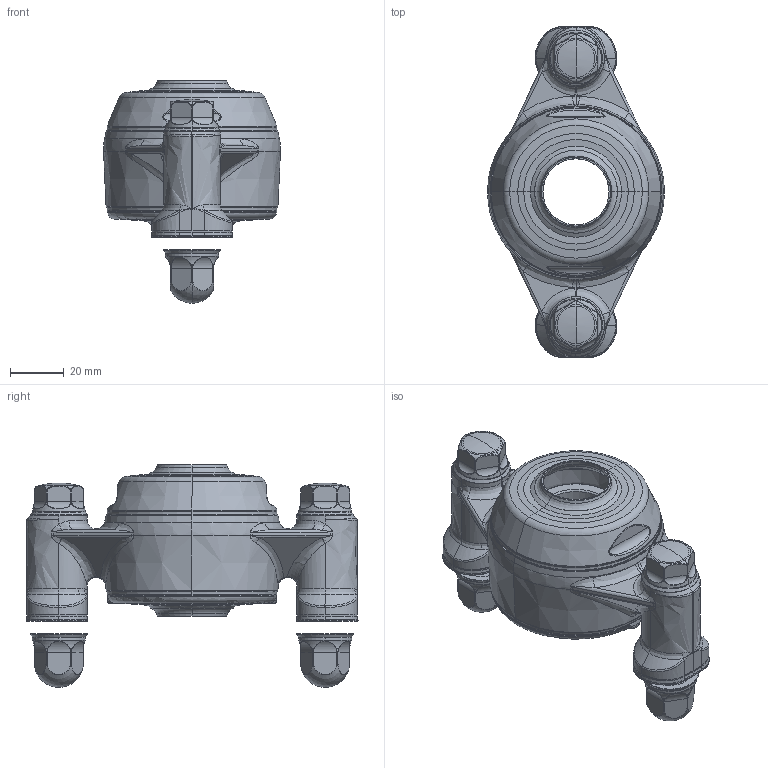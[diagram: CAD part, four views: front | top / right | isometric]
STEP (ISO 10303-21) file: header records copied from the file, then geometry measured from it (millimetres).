
FILE_DESCRIPTION (( 'STEP AP203' ), '1' );
FILE_NAME ('XB2FC52(Blue)-CSB2500(Front)-OM(Blue)-OS(Blue)-BXHM1050-NDXHM10_Shell.step', '2020-09-23T19:20:19', ( '' ), ( '' ), 'SwSTEP 2.0', 'SolidWorks 2019', '' );
FILE_SCHEMA (( 'CONFIG_CONTROL_DESIGN' ));
Length unit declared in the file: millimetre
Products named in the file (1): XB2FC52(Blue)-CSB2500(Front)-OM(Blue)-OS(Blue)-BXHM1050-NDXHM10_Shell
Bounding box: 65.77 x 123.4 x 82.74 mm (x, y, z)
Surface area: 41167.8 mm2 (no closed solid volume)
Topology: 0 solids, 42 shells, 889 faces, 2847 edges, 1924 vertices
Faces by surface type: bspline 355, cylinder 186, torus 124, plane 111, cone 79, sphere 34
Entity records: 51720 total; most frequent: CARTESIAN_POINT 30386, ORIENTED_EDGE 4631, DIRECTION 3563, EDGE_CURVE 2843, VERTEX_POINT 1924, AXIS2_PLACEMENT_3D 1503, B_SPLINE_CURVE_WITH_KNOTS 1242, CIRCLE 968
